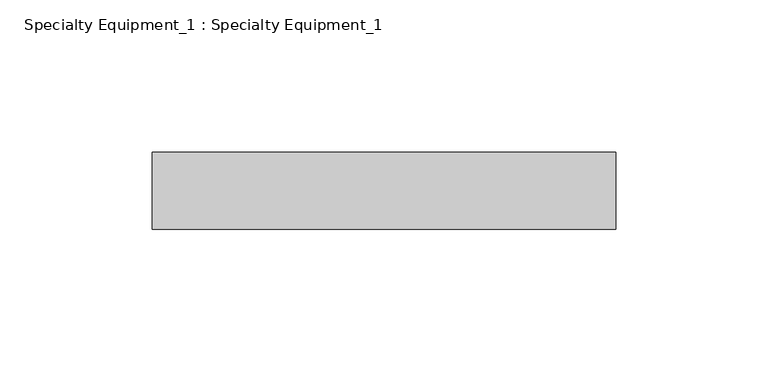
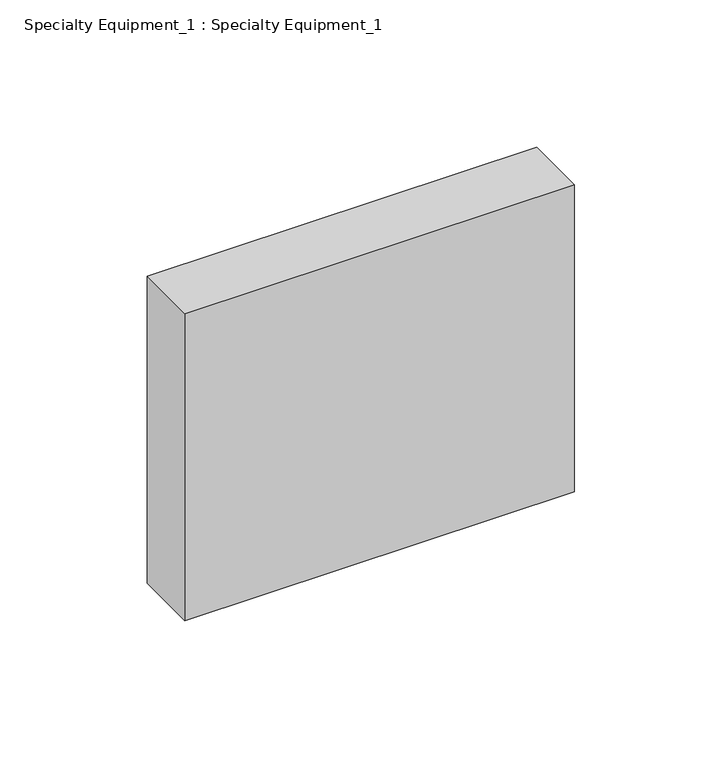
"""IFC4 building model written with IfcOpenShell, lengths in millimetres: proxy geometry, Specialty Equipment_1 : Specialty Equipment_1."""

from ifc_helpers import new_model, si_unit, origin, origin_with_axes, place, context, project, spatial, polyline, outline, extrude, source, transform, mapped, element, save


def specialty_equipment_1_specialty_equipment_1_149a46b1(model_context):
    return source(origin(), model_context, "Body", "SweptSolid", [
        extrude(outline(polyline([(76.2, 0.0), (76.2, -25.4), (-76.2, -25.4), (-76.2, 0.0), (76.2, 0.0)])), origin_with_axes(), (0.0, 0.0, 1.0), 127.0),
    ])


if __name__ == "__main__":
    model = new_model("IFC4")
    model_context = context("Model", 3, world=origin())
    ifc_project = project(units=[si_unit("LENGTHUNIT", "METRE", prefix="MILLI")], contexts=[model_context])
    site = spatial("IfcSite", under=ifc_project)
    building = spatial("IfcBuilding", under=site)
    placement = place(None, origin())
    specialty_equipment_1_specialty_equipment_1_shape = specialty_equipment_1_specialty_equipment_1_149a46b1(model_context)
    element("IfcBuildingElementProxy", 1, Name="Specialty Equipment_1 : Specialty Equipment_1", ObjectType="Specialty Equipment_1 : Specialty Equipment_1", at=placement, inside=building, context=model_context, shape_type="MappedRepresentation", body=[
        mapped(specialty_equipment_1_specialty_equipment_1_shape, transform((0.0, 0.0, 0.0), x_axis=(1.0, 0.0, 0.0), y_axis=(0.0, 1.0, 0.0), z_axis=(0.0, 0.0, 1.0))),
    ])
    save(model, "model.ifc")
